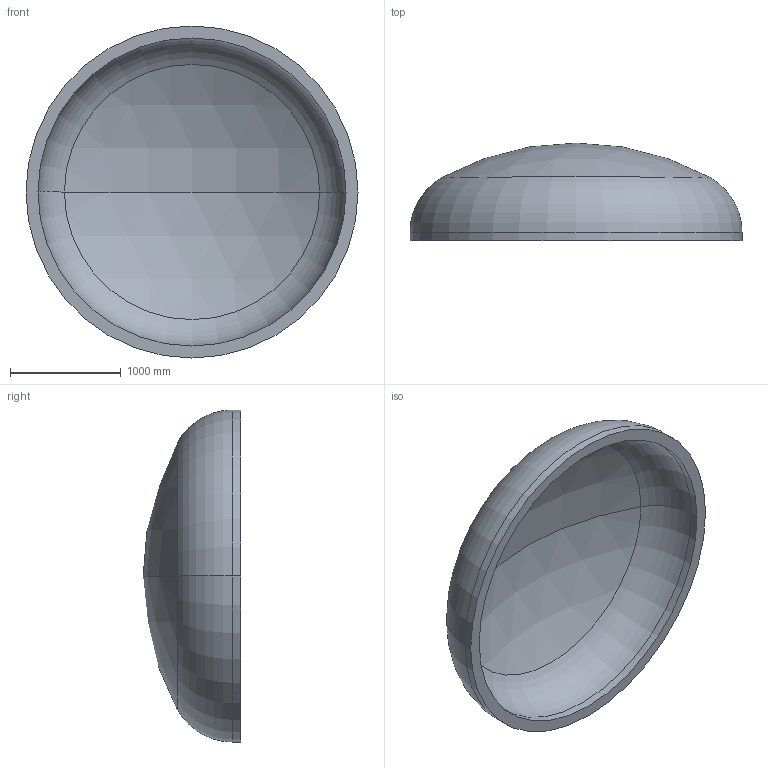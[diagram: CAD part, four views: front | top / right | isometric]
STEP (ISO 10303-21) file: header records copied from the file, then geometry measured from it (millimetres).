
FILE_DESCRIPTION (( 'STEP AP203' ), '1' );
FILE_NAME ('DIN 28013 Korbbogenform_-_Boden DIN 28013 - 3000 x 75 - I - s=108.step', '2016-07-01T18:09:21', ( '' ), ( '' ), 'SwSTEP 2.0', 'SolidWorks 2013', '' );
FILE_SCHEMA (( 'CONFIG_CONTROL_DESIGN' ));
Length unit declared in the file: millimetre
Products named in the file (1): DIN 28013 Korbbogenform_-_Boden DIN 28013 - 3000 x 75 - I - s=108
Bounding box: 3000 x 881.54 x 3000 mm (x, y, z)
Volume: 1081676136.8 mm3; surface area: 21036694.6 mm2
Topology: 1 solids, 1 shells, 13 faces, 24 edges, 14 vertices
Faces by surface type: torus 4, cylinder 4, sphere 4, plane 1
Entity records: 407 total; most frequent: DIRECTION 72, CARTESIAN_POINT 52, ORIENTED_EDGE 48, AXIS2_PLACEMENT_3D 34, EDGE_CURVE 24, CIRCLE 20, EDGE_LOOP 14, VERTEX_POINT 14
